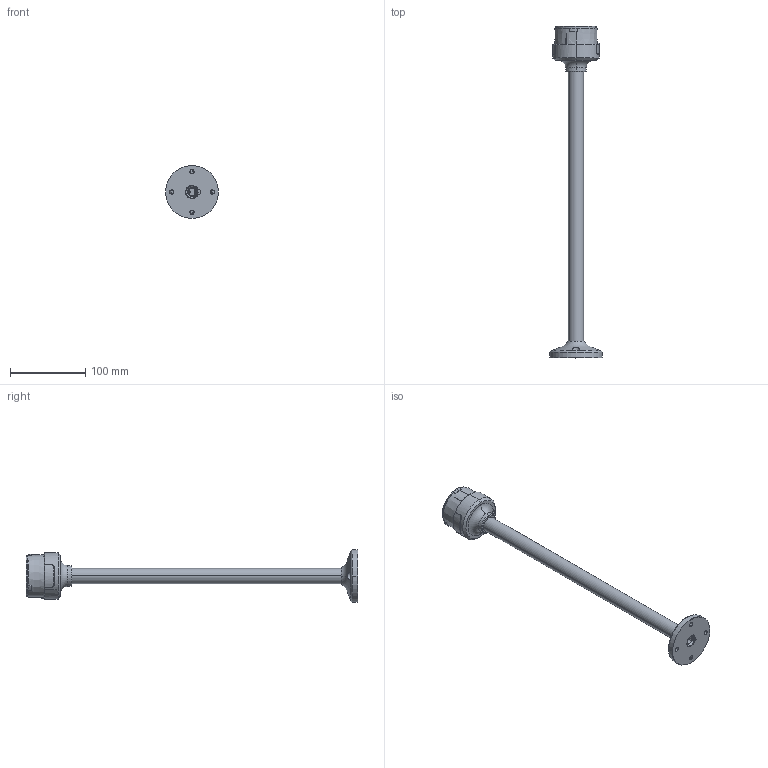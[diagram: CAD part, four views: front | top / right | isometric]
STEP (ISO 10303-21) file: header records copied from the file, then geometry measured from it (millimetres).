
FILE_DESCRIPTION((''),'2;1');
FILE_NAME('XVUZ400-06','2023-05-10T16:50:29',('SESA530062'),('Schneider-Electric'),'CREO PARAMETRIC BY PTC INC, 2021284','CREO PARAMETRIC BY PTC INC, 2021284','');
FILE_SCHEMA(('AP242_MANAGED_MODEL_BASED_3D_ENGINEERING_MIM_LF { 1 0 10303 442 1 1 4 }'));
Length unit declared in the file: millimetre
Products named in the file (1): XVUZ400-06
Bounding box: 70 x 441 x 70 mm (x, y, z)
Volume: 207932.3 mm3; surface area: 96059.1 mm2
Topology: 1 solids, 2 shells, 635 faces, 1896 edges, 1220 vertices
Faces by surface type: plane 250, cone 115, bspline 100, cylinder 100, torus 62, sphere 8
Entity records: 34058 total; most frequent: CARTESIAN_POINT 14561, ORIENTED_EDGE 3762, DIRECTION 2732, EDGE_CURVE 1881, VERTEX_POINT 1220, AXIS2_PLACEMENT_3D 1063, B_SPLINE_CURVE_WITH_KNOTS 747, EDGE_LOOP 675
